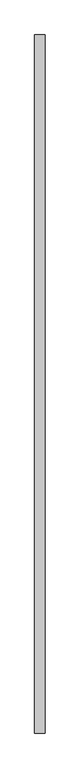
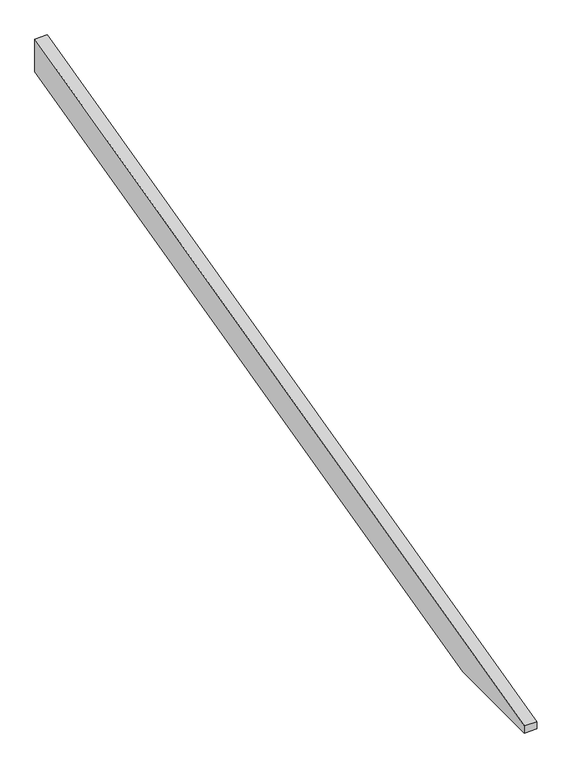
"""IFC4 building model written with IfcOpenShell, lengths in millimetres: proxy geometry, Modelos genéricos 34 : Modelos genéricos 12."""

import ifcopenshell
import ifcopenshell.guid

model = None  # the IFC model being written
_history = None  # IfcOwnerHistory: only IFC2X3 demands one
_inside = {}  # id of a spatial element -> (the spatial element, [elements in it])
_under = {}  # id of a project, library or spatial element -> (it, [spatial elements below it])
_declared = {}  # id of a project -> (the project, [libraries it declares])
_typed = {}  # id of a type object -> (the type object, [elements of that type])
_made_of = {}  # id of a material, layer set ... -> (it, [elements and type objects made of it])


def new_model(schema):
    """Start an empty IFC model of exactly this schema.

    Asked for "IFC4X3", IfcOpenShell would pick the latest addendum, in which some entities
    have other attributes; the version numbers below select the first issue.
    IFC2X3 requires an IfcOwnerHistory on every rooted entity: one is made here for all.
    """
    global model, _history
    if schema == "IFC4X3":
        model = ifcopenshell.file(schema_version=(4, 3, 0, 0))
    else:
        model = ifcopenshell.file(schema=schema)
    _inside.clear()
    _under.clear()
    _declared.clear()
    _typed.clear()
    _made_of.clear()
    _history = None
    if model.schema == "IFC2X3":
        org = make("IfcOrganization", Name="unknown")
        user = make(
            "IfcPersonAndOrganization",
            ThePerson=make("IfcPerson", FamilyName="unknown"),
            TheOrganization=org,
        )
        app = make(
            "IfcApplication",
            ApplicationDeveloper=org,
            Version="unknown",
            ApplicationFullName="unknown",
            ApplicationIdentifier="unknown",
        )
        _history = make(
            "IfcOwnerHistory",
            OwningUser=user,
            OwningApplication=app,
            ChangeAction="ADDED",
            CreationDate=0,
        )
    return model


def make(cls, **values):
    """One entity of the class cls with the attributes given. An attribute that is None is left unset."""
    return model.create_entity(
        cls, **{name: value for name, value in values.items() if value is not None}
    )


def rooted(cls, **values):
    """An entity with a GlobalId (a new one), such as an element, a storey or a relation."""
    return make(cls, GlobalId=ifcopenshell.guid.new(), OwnerHistory=_history, **values)


def si_unit(unit_type, name, prefix=None):
    """IfcSIUnit, for example si_unit("LENGTHUNIT", "METRE", prefix="MILLI")."""
    return make("IfcSIUnit", UnitType=unit_type, Prefix=prefix, Name=name)


def assignment(units):
    """IfcUnitAssignment: the units of a project."""
    return None if units is None else make("IfcUnitAssignment", Units=units)


def point(xyz):
    """IfcCartesianPoint."""
    return None if xyz is None else make("IfcCartesianPoint", Coordinates=xyz)


def direction(xyz):
    """IfcDirection."""
    return None if xyz is None else make("IfcDirection", DirectionRatios=xyz)


def frame(location, z_axis=None, x_axis=None):
    """IfcAxis2Placement3D, a coordinate frame: its origin and axes. An axis left out is left unset."""
    return make(
        "IfcAxis2Placement3D",
        Location=point(location),
        Axis=direction(z_axis),
        RefDirection=direction(x_axis),
    )


def origin():
    """The frame at (0, 0, 0) with its axes left unset."""
    return frame((0.0, 0.0, 0.0))


def place(relative_to, where):
    """IfcLocalPlacement: puts the frame where relative to a parent placement (None: the world)."""
    return make(
        "IfcLocalPlacement", PlacementRelTo=relative_to, RelativePlacement=where
    )


def context(
    kind, dimensions, precision=None, world=None, true_north=None, identifier=None
):
    """IfcGeometricRepresentationContext, for example the 3D "Model" context."""
    return make(
        "IfcGeometricRepresentationContext",
        ContextIdentifier=identifier,
        ContextType=kind,
        CoordinateSpaceDimension=dimensions,
        Precision=precision,
        WorldCoordinateSystem=world,
        TrueNorth=true_north,
    )


def project(units=None, contexts=None):
    """IfcProject with its units and contexts."""
    return rooted(
        "IfcProject",
        Name="project",
        RepresentationContexts=contexts,
        UnitsInContext=assignment(units),
    )


def spatial(cls, under=None, at=None, **own):
    """A site, building, storey or space (cls), placed at a placement, below another one or the project."""
    s = rooted(cls, ObjectPlacement=at, **own)
    if under is not None:
        _under.setdefault(under.id(), (under, []))[1].append(s)
    return s


def polyline(points):
    """IfcPolyline through the points."""
    return make("IfcPolyline", Points=[point(p) for p in points])


def outline(outer, holes=None, kind="AREA"):
    """IfcArbitraryClosedProfileDef: a profile drawn as a closed curve; with holes, ...WithVoids."""
    if holes is None:
        return make("IfcArbitraryClosedProfileDef", ProfileType=kind, OuterCurve=outer)
    return make(
        "IfcArbitraryProfileDefWithVoids",
        ProfileType=kind,
        OuterCurve=outer,
        InnerCurves=holes,
    )


def extrude(swept, where, along, depth):
    """IfcExtrudedAreaSolid: the profile swept, set in the frame where, extruded along a direction by depth."""
    return make(
        "IfcExtrudedAreaSolid",
        SweptArea=swept,
        Position=where,
        ExtrudedDirection=direction(along),
        Depth=depth,
    )


def shape(context_of_items, identifier, shape_type, items):
    """IfcShapeRepresentation: the items that make up one representation, for example the "Body"."""
    return make(
        "IfcShapeRepresentation",
        ContextOfItems=context_of_items,
        RepresentationIdentifier=identifier,
        RepresentationType=shape_type,
        Items=items,
    )


def source(mapping_origin, context_of_items, identifier, shape_type, items):
    """IfcRepresentationMap: a shape defined once, which mapped items show again and again."""
    return make(
        "IfcRepresentationMap",
        MappingOrigin=mapping_origin,
        MappedRepresentation=shape(context_of_items, identifier, shape_type, items),
    )


def transform(
    local_origin,
    x_axis=None,
    y_axis=None,
    z_axis=None,
    scale=None,
    scale2=None,
    scale3=None,
    uniform=True,
):
    """IfcCartesianTransformationOperator3D, or its non-uniform kind. x_axis, y_axis, z_axis: its Axis1, 2, 3."""
    if uniform:
        return make(
            "IfcCartesianTransformationOperator3D",
            Axis1=direction(x_axis),
            Axis2=direction(y_axis),
            LocalOrigin=point(local_origin),
            Scale=scale,
            Axis3=direction(z_axis),
        )
    return make(
        "IfcCartesianTransformationOperator3DnonUniform",
        Axis1=direction(x_axis),
        Axis2=direction(y_axis),
        LocalOrigin=point(local_origin),
        Scale=scale,
        Axis3=direction(z_axis),
        Scale2=scale2,
        Scale3=scale3,
    )


def mapped(mapping_source, mapping_target):
    """IfcMappedItem: shows the shape of a source again, moved by a transform."""
    return make(
        "IfcMappedItem", MappingSource=mapping_source, MappingTarget=mapping_target
    )


def made_of(thing, what):
    """Note that an element or type object is made of a material, layer set ...; save() writes the relation."""
    if what is not None:
        _made_of.setdefault(what.id(), (what, []))[1].append(thing)
    return thing


def element(
    cls,
    number,
    at=None,
    inside=None,
    cuts=None,
    type_object=None,
    material=None,
    context=None,
    identifier="Body",
    shape_type=None,
    held_by="IfcProductDefinitionShape",
    body=None,
    shapes=None,
    **own,
):
    """One element of the class cls, such as IfcWall. Its Tag is "e" and its number.

    at: its placement. inside: the storey or other place that contains it. cuts: it is an
    opening in that element (IfcRelVoidsElement). A single representation is given by context,
    identifier, shape_type and body (its items); several are given by shapes. held_by: the class
    of the entity that holds the representations. save() writes the other relations.
    """
    e = rooted(cls, Tag="e%d" % number, ObjectPlacement=at, **own)
    if body is not None:
        shapes = [shape(context, identifier, shape_type, body)]
    if shapes is not None:
        e.Representation = make(held_by, Representations=shapes)
    if inside is not None:
        _inside.setdefault(inside.id(), (inside, []))[1].append(e)
    if cuts is not None:
        rooted(
            "IfcRelVoidsElement", RelatingBuildingElement=cuts, RelatedOpeningElement=e
        )
    if type_object is not None:
        _typed.setdefault(type_object.id(), (type_object, []))[1].append(e)
    return made_of(e, material)


def aggregate(whole, parts):
    """IfcRelAggregates: a whole, such as a stair, and the parts it consists of."""
    return rooted("IfcRelAggregates", RelatingObject=whole, RelatedObjects=parts)


def save(model, path):
    """Write the relations noted so far, then the file.

    IfcRelAggregates (storeys below a building ...), IfcRelContainedInSpatialStructure (elements
    in a storey), IfcRelDefinesByType, IfcRelAssociatesMaterial and IfcRelDeclares: one each for
    every whole, place, type object, material and project.
    """
    for whole, parts in _under.values():
        aggregate(whole, parts)
    for where, things in _inside.values():
        rooted(
            "IfcRelContainedInSpatialStructure",
            RelatedElements=things,
            RelatingStructure=where,
        )
    for kind, things in _typed.values():
        rooted("IfcRelDefinesByType", RelatedObjects=things, RelatingType=kind)
    for what, things in _made_of.values():
        rooted("IfcRelAssociatesMaterial", RelatedObjects=things, RelatingMaterial=what)
    for by, libraries in _declared.values():
        rooted("IfcRelDeclares", RelatingContext=by, RelatedDefinitions=libraries)
    model.write(path)


def generic_models_5cccd424(model_context):
    return source(origin(), model_context, "Body", "SweptSolid", [
        extrude(outline(polyline([(-2181.3761835, 3197.4798401), (1878.6238165, 4209.7515316), (1878.6238165, 4044.8533509), (-1670.3291324, 3160.0), (-2181.3761835, 3160.0), (-2181.3761835, 3197.4798401)])), frame((-9026.5527533, 0.0, 0.0), z_axis=(1.0, 0.0, 0.0), x_axis=(0.0, 1.0, 0.0)), (0.0, 0.0, 1.0), 60.0),
    ])


if __name__ == "__main__":
    model = new_model("IFC4")
    model_context = context("Model", 3, world=origin())
    ifc_project = project(units=[si_unit("LENGTHUNIT", "METRE", prefix="MILLI")], contexts=[model_context])
    site = spatial("IfcSite", under=ifc_project)
    building = spatial("IfcBuilding", under=site)
    placement = place(None, origin())
    generic_models_shape = generic_models_5cccd424(model_context)
    element("IfcBuildingElementProxy", 1, Name="Modelos genéricos 34 : Modelos genéricos 12", ObjectType="Modelos genéricos 34 : Modelos genéricos 12", at=placement, inside=building, context=model_context, shape_type="MappedRepresentation", body=[
        mapped(generic_models_shape, transform((0.0, 0.0, 0.0), x_axis=(1.0, 0.0, 0.0), y_axis=(0.0, 1.0, 0.0), z_axis=(0.0, 0.0, 1.0))),
    ])
    save(model, "model.ifc")
